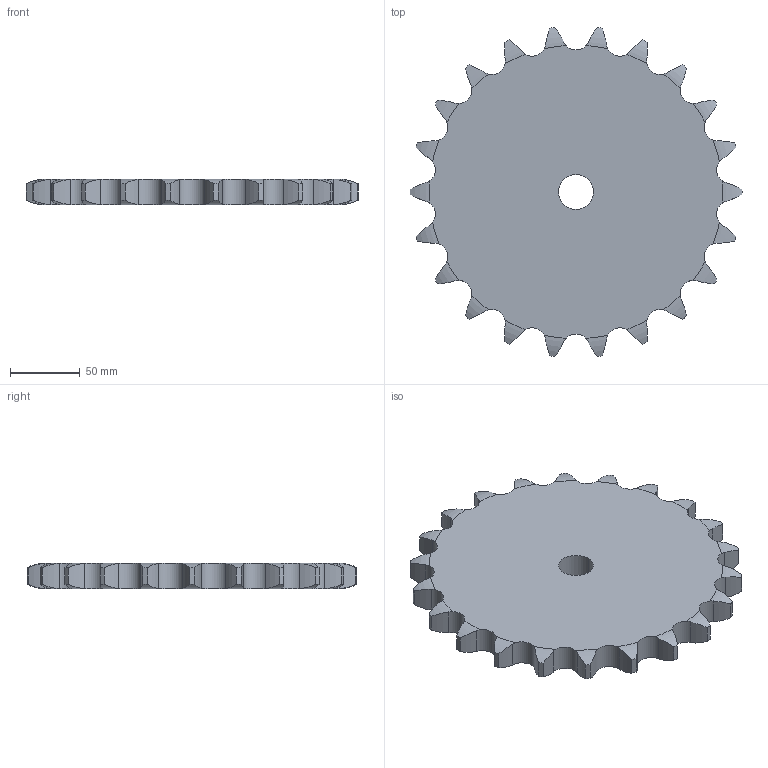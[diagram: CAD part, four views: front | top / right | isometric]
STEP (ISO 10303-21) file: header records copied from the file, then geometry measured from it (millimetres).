
FILE_DESCRIPTION((''),'2;1');
FILE_NAME('500-601-0022_PRT','2021-02-12T',('Brieden'),('Brieden'),'PRO/ENGINEER BY PARAMETRIC TECHNOLOGY CORPORATION, 2010160','PRO/ENGINEER BY PARAMETRIC TECHNOLOGY CORPORATION, 2010160','');
FILE_SCHEMA(('AUTOMOTIVE_DESIGN { 1 0 10303 214 1 1 1 1 }'));
Length unit declared in the file: millimetre
Products named in the file (1): 500-601-0022_PRT
Bounding box: 238.1 x 236.15 x 18.5 mm (x, y, z)
Volume: 673108.8 mm3; surface area: 93372.3 mm2
Topology: 1 solids, 1 shells, 136 faces, 402 edges, 268 vertices
Faces by surface type: cylinder 90, torus 44, plane 2
Entity records: 6672 total; most frequent: CARTESIAN_POINT 1971, ORIENTED_EDGE 804, DIRECTION 634, PRESENTATION_STYLE_ASSIGNMENT 403, STYLED_ITEM 403, CURVE_STYLE 402, EDGE_CURVE 402, AXIS2_PLACEMENT_3D 272
